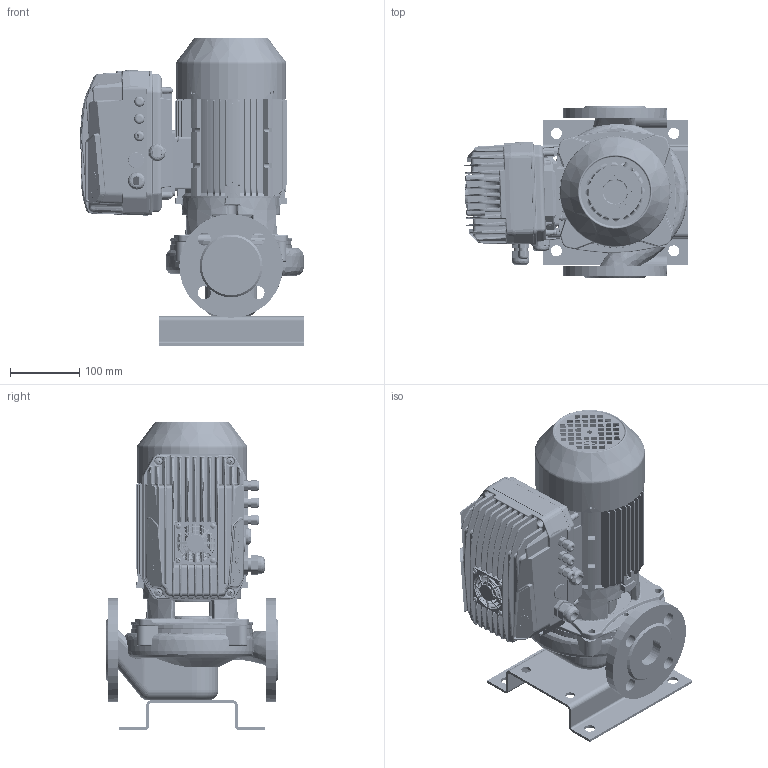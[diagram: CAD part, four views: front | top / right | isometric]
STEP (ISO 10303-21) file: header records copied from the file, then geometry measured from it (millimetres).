
FILE_DESCRIPTION(('STEP AP214'),'1');
FILE_NAME('export.stp','2022-09-19T06:45:00',(' '),(' '),'Spatial InterOp 3D',' ',' ');
FILE_SCHEMA(('AUTOMOTIVE_DESIGN { 1 0 10303 214 1 1 1 1 }'));
Length unit declared in the file: millimetre
Products named in the file (45): V_AdapMida205_407; 210588; DIN_7985-M5X8; W_L40A2MDKP80; V_PPL40A; V_TLAEAP3233L40A; V_JALKA35973; 160029; 160001; V_MKP80-1_N13; 160141; 160137; 160138; 160139; 160140; Koura_Ale_M5; Plug_Blind_M20; Sealing_Plug_M20; DIN_7985-M5X12; 480032; 480031___; 160133; MIDA_180deg; BASE_MIDA_NASTEC_89; 3005020100_AF0_157; PRT0001; PRT0002; PRT0003; PRT0005; PRT0006; PRT0007; V4-25--_-_U7687_PZ_AF0_5; V4-25--_-_U7687_PZ_AF1_5; V4-25--_-_U7687_PZ_AF2_5; V4-25--_-_U7687_PZ_AF3_5; V5-30--_-_U7687_PZ_AF0_5; V5-30--_-_U7687_PZ_AF1_5; V5-30--_-_U7687_PZ_AF2_5; V5-30--_-_U7687_PZ_5; 2001300200_32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
Assembly tree (48 placements, depth 4):
  W_L40A2MDKP80
    V_AdapMida205_407
      210588
      DIN_7985-M5X8  x2
    V_PPL40A
    V_TLAEAP3233L40A
    V_JALKA35973
    V_MKP80-1_N13
      160029
        160001
      160141
        160137
        160138
        160139
        160140
        Koura_Ale_M5
        Plug_Blind_M20
        Sealing_Plug_M20
        DIN_7985-M5X8
        DIN_7985-M5X12  x4
      480032
        480031___
      160133
    Mida205
      MIDA_180deg
        BASE_MIDA_NASTEC_89
        3005020100_AF0_157
        PRT0001
        PRT0002
        PRT0003
        PRT0005
        PRT0006
        PRT0007
        V4-25--_-_U7687_PZ_AF0_5
        V4-25--_-_U7687_PZ_AF1_5
        V4-25--_-_U7687_PZ_AF2_5
        V4-25--_-_U7687_PZ_AF3_5
        V5-30--_-_U7687_PZ_AF0_5
        V5-30--_-_U7687_PZ_AF1_5
        V5-30--_-_U7687_PZ_AF2_5
        V5-30--_-_U7687_PZ_5
        2001300200_32
        TASTIERA_MIDA_2_44
        ETICHETTA_MIDA_9
        TAPPO_PRESSACAVO_M20_5
Bounding box: 323.24 x 250 x 446 mm (x, y, z)
Volume: 3816476.4 mm3; surface area: 1439669.4 mm2
Topology: 40 solids, 41 shells, 5892 faces, 15370 edges, 9531 vertices
Faces by surface type: plane 2126, cylinder 1811, bspline 1294, cone 396, torus 241, sphere 24
Entity records: 305337 total; most frequent: CARTESIAN_POINT 143167, ORIENTED_EDGE 30114, DIRECTION 21473, EDGE_CURVE 15061, VERTEX_POINT 9404, AXIS2_PLACEMENT_3D 7781, EDGE_LOOP 6300, LINE 5911
